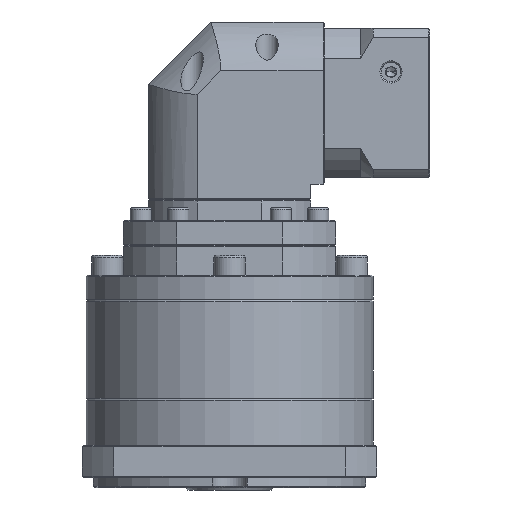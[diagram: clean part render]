
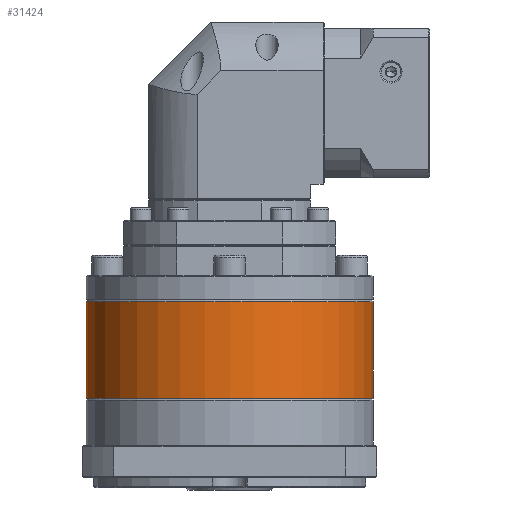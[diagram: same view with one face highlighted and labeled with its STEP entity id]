
A CAD part, front view. The second image highlights one B-rep face of the part: STEP entity #31424.
In plain terms, the highlighted cylindrical face has radius 57.5 mm (diameter 115 mm), a partial arc.
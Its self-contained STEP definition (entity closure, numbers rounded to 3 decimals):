
#9564 = DIRECTION ( 'NONE',  ( -1., 0., 0. ) ) ;
#9651 = EDGE_CURVE ( 'NONE', #67150, #118264, #18154, .T. ) ;
#10104 = AXIS2_PLACEMENT_3D ( 'NONE', #124454, #10464, #123551 ) ;
#10464 = DIRECTION ( 'NONE',  ( 0., 0., 1. ) ) ;
#12310 = CIRCLE ( 'NONE', #129204, 57.5 ) ;
#13347 = DIRECTION ( 'NONE',  ( -1., 0., 0. ) ) ;
#18154 = LINE ( 'NONE', #42119, #24665 ) ;
#24665 = VECTOR ( 'NONE', #72385, 1000. ) ;
#24674 = DIRECTION ( 'NONE',  ( 0., 0., -1. ) ) ;
#31424 = ADVANCED_FACE ( 'NONE', ( #39363 ), #105498, .T. ) ;
#32695 = EDGE_LOOP ( 'NONE', ( #109013, #86060, #117343, #100746 ) ) ;
#36698 = DIRECTION ( 'NONE',  ( 0., 0., -1. ) ) ;
#38014 = CARTESIAN_POINT ( 'NONE',  ( 7.683, 81.74, -100.246 ) ) ;
#39363 = FACE_OUTER_BOUND ( 'NONE', #32695, .T. ) ;
#42119 = CARTESIAN_POINT ( 'NONE',  ( 122.683, 81.74, -100.246 ) ) ;
#46376 = CIRCLE ( 'NONE', #10104, 57.5 ) ;
#53140 = CARTESIAN_POINT ( 'NONE',  ( 7.683, 81.74, -100.746 ) ) ;
#56398 = CARTESIAN_POINT ( 'NONE',  ( 65.183, 81.74, -100.746 ) ) ;
#61303 = CARTESIAN_POINT ( 'NONE',  ( 65.183, 81.74, -100.246 ) ) ;
#67024 = CARTESIAN_POINT ( 'NONE',  ( 7.683, 81.74, -139.457 ) ) ;
#67150 = VERTEX_POINT ( 'NONE', #131694 ) ;
#68782 = LINE ( 'NONE', #38014, #120492 ) ;
#71538 = EDGE_CURVE ( 'NONE', #67150, #75609, #12310, .T. ) ;
#72385 = DIRECTION ( 'NONE',  ( 0., 0., -1. ) ) ;
#75609 = VERTEX_POINT ( 'NONE', #53140 ) ;
#86060 = ORIENTED_EDGE ( 'NONE', *, *, #71538, .T. ) ;
#100675 = EDGE_CURVE ( 'NONE', #107182, #118264, #46376, .T. ) ;
#100746 = ORIENTED_EDGE ( 'NONE', *, *, #100675, .T. ) ;
#100853 = CARTESIAN_POINT ( 'NONE',  ( 122.683, 81.74, -139.457 ) ) ;
#105498 = CYLINDRICAL_SURFACE ( 'NONE', #129079, 57.5 ) ;
#107182 = VERTEX_POINT ( 'NONE', #67024 ) ;
#109013 = ORIENTED_EDGE ( 'NONE', *, *, #9651, .F. ) ;
#110918 = EDGE_CURVE ( 'NONE', #75609, #107182, #68782, .T. ) ;
#117343 = ORIENTED_EDGE ( 'NONE', *, *, #110918, .T. ) ;
#118264 = VERTEX_POINT ( 'NONE', #100853 ) ;
#120492 = VECTOR ( 'NONE', #36698, 1000. ) ;
#123551 = DIRECTION ( 'NONE',  ( -1., 0., 0. ) ) ;
#124454 = CARTESIAN_POINT ( 'NONE',  ( 65.183, 81.74, -139.457 ) ) ;
#129079 = AXIS2_PLACEMENT_3D ( 'NONE', #61303, #133188, #9564 ) ;
#129204 = AXIS2_PLACEMENT_3D ( 'NONE', #56398, #24674, #13347 ) ;
#131694 = CARTESIAN_POINT ( 'NONE',  ( 122.683, 81.74, -100.746 ) ) ;
#133188 = DIRECTION ( 'NONE',  ( 0., 0., -1. ) ) ;
